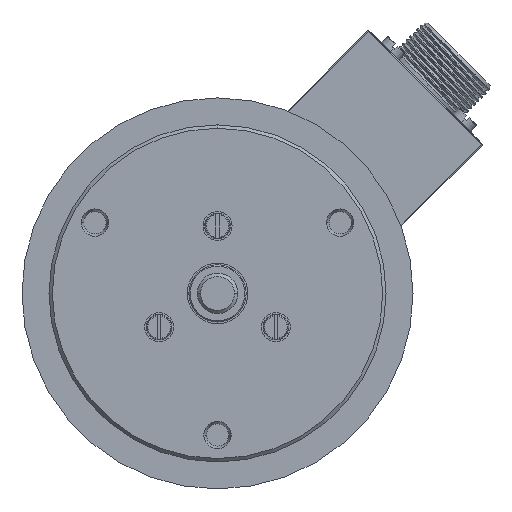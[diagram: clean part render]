
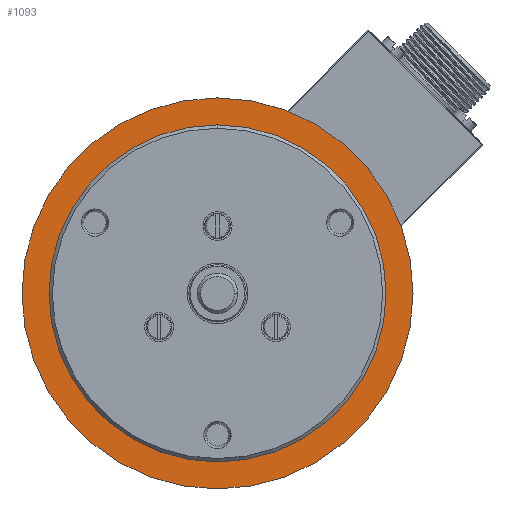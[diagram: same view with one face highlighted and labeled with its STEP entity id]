
A CAD part, left-side view. The second image highlights one B-rep face of the part: STEP entity #1093.
In plain terms, the highlighted planar face has unit normal (-1, 0, 0).
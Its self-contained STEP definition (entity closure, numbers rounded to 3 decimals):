
#914 = DIRECTION ( 'NONE',  ( 0., 0., -1. ) ) ;
#981 = DIRECTION ( 'NONE',  ( 0., 0., -1. ) ) ;
#1045 = VERTEX_POINT ( 'NONE', #14490 ) ;
#1093 = ADVANCED_FACE ( 'NONE', ( #6129, #8534 ), #13521, .T. ) ;
#1299 = EDGE_LOOP ( 'NONE', ( #8635, #8647 ) ) ;
#2091 = VERTEX_POINT ( 'NONE', #11670 ) ;
#3399 = CARTESIAN_POINT ( 'NONE',  ( 15.866, 16.959, -6.363 ) ) ;
#3934 = AXIS2_PLACEMENT_3D ( 'NONE', #14559, #7551, #981 ) ;
#4485 = DIRECTION ( 'NONE',  ( 0., 0., 1. ) ) ;
#5155 = AXIS2_PLACEMENT_3D ( 'NONE', #14497, #7485, #914 ) ;
#5190 = ORIENTED_EDGE ( 'NONE', *, *, #7259, .F. ) ;
#5300 = CIRCLE ( 'NONE', #3934, 25. ) ;
#5766 = CARTESIAN_POINT ( 'NONE',  ( 15.866, 16.959, 18.637 ) ) ;
#6106 = EDGE_LOOP ( 'NONE', ( #5190, #8694 ) ) ;
#6129 = FACE_BOUND ( 'NONE', #1299, .T. ) ;
#6438 = CARTESIAN_POINT ( 'NONE',  ( 15.866, 16.959, 18.637 ) ) ;
#6648 = CIRCLE ( 'NONE', #8158, 29. ) ;
#6654 = EDGE_CURVE ( 'NONE', #11886, #1045, #8526, .T. ) ;
#6853 = DIRECTION ( 'NONE',  ( 0., 0., -1. ) ) ;
#7259 = EDGE_CURVE ( 'NONE', #2091, #10461, #6648, .T. ) ;
#7485 = DIRECTION ( 'NONE',  ( 1., 0., 0. ) ) ;
#7541 = DIRECTION ( 'NONE',  ( 0., 0., -1. ) ) ;
#7551 = DIRECTION ( 'NONE',  ( 1., 0., 0. ) ) ;
#7970 = EDGE_CURVE ( 'NONE', #1045, #11886, #5300, .T. ) ;
#8158 = AXIS2_PLACEMENT_3D ( 'NONE', #5766, #13792, #6853 ) ;
#8526 = CIRCLE ( 'NONE', #5155, 25. ) ;
#8534 = FACE_OUTER_BOUND ( 'NONE', #6106, .T. ) ;
#8590 = CARTESIAN_POINT ( 'NONE',  ( 15.866, 16.959, 47.637 ) ) ;
#8635 = ORIENTED_EDGE ( 'NONE', *, *, #6654, .T. ) ;
#8647 = ORIENTED_EDGE ( 'NONE', *, *, #7970, .T. ) ;
#8694 = ORIENTED_EDGE ( 'NONE', *, *, #9272, .F. ) ;
#8710 = AXIS2_PLACEMENT_3D ( 'NONE', #3399, #11169, #4485 ) ;
#9272 = EDGE_CURVE ( 'NONE', #10461, #2091, #11841, .T. ) ;
#10424 = CARTESIAN_POINT ( 'NONE',  ( 15.866, 16.959, -6.363 ) ) ;
#10461 = VERTEX_POINT ( 'NONE', #8590 ) ;
#10505 = AXIS2_PLACEMENT_3D ( 'NONE', #6438, #14555, #7541 ) ;
#11169 = DIRECTION ( 'NONE',  ( -1., 0., 0. ) ) ;
#11670 = CARTESIAN_POINT ( 'NONE',  ( 15.866, 16.959, -10.363 ) ) ;
#11841 = CIRCLE ( 'NONE', #10505, 29. ) ;
#11886 = VERTEX_POINT ( 'NONE', #10424 ) ;
#13521 = PLANE ( 'NONE',  #8710 ) ;
#13792 = DIRECTION ( 'NONE',  ( 1., 0., 0. ) ) ;
#14490 = CARTESIAN_POINT ( 'NONE',  ( 15.866, 16.959, 43.637 ) ) ;
#14497 = CARTESIAN_POINT ( 'NONE',  ( 15.866, 16.959, 18.637 ) ) ;
#14555 = DIRECTION ( 'NONE',  ( 1., 0., 0. ) ) ;
#14559 = CARTESIAN_POINT ( 'NONE',  ( 15.866, 16.959, 18.637 ) ) ;
